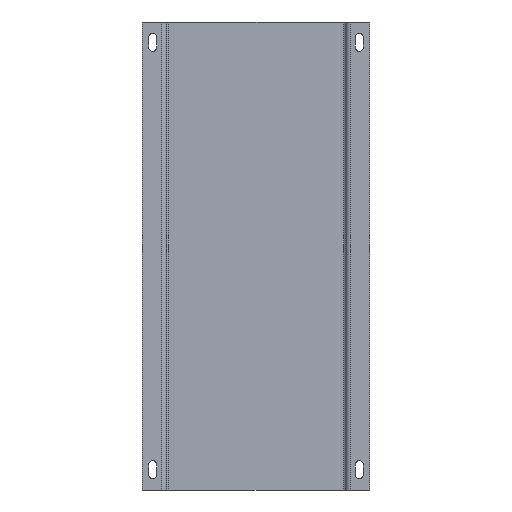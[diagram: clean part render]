
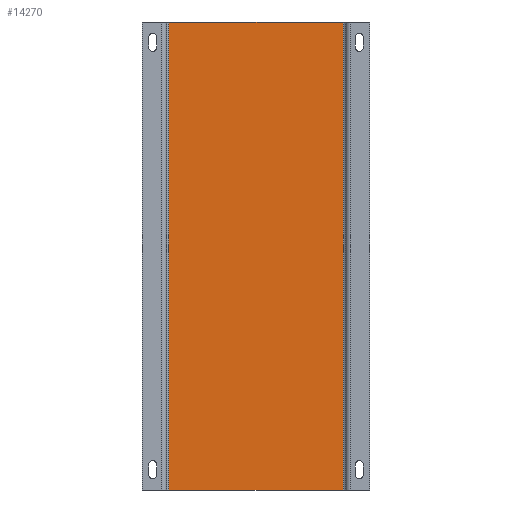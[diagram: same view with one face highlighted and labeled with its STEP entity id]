
A CAD part, front view. The second image highlights one B-rep face of the part: STEP entity #14270.
In plain terms, the highlighted planar face has unit normal (0, -1, 0).
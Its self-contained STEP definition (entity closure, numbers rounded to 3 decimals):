
#1102 = DIRECTION ( 'NONE',  ( 0., 0., -1. ) ) ;
#1936 = EDGE_LOOP ( 'NONE', ( #11999, #9047, #13992, #11092 ) ) ;
#2120 = LINE ( 'NONE', #7288, #6134 ) ;
#2346 = CARTESIAN_POINT ( 'NONE',  ( 127., 0., -65. ) ) ;
#2593 = VERTEX_POINT ( 'NONE', #14261 ) ;
#2670 = VERTEX_POINT ( 'NONE', #4105 ) ;
#4105 = CARTESIAN_POINT ( 'NONE',  ( -127., 0., -65. ) ) ;
#4439 = AXIS2_PLACEMENT_3D ( 'NONE', #12931, #8237, #9215 ) ;
#4808 = FACE_OUTER_BOUND ( 'NONE', #1936, .T. ) ;
#4857 = PLANE ( 'NONE',  #4439 ) ;
#6134 = VECTOR ( 'NONE', #8354, 1000. ) ;
#6272 = VECTOR ( 'NONE', #1102, 1000. ) ;
#6852 = VECTOR ( 'NONE', #10891, 1000. ) ;
#7288 = CARTESIAN_POINT ( 'NONE',  ( -127., 0., 615. ) ) ;
#7291 = CARTESIAN_POINT ( 'NONE',  ( -137., 0., -65. ) ) ;
#8187 = EDGE_CURVE ( 'NONE', #8516, #2670, #9826, .T. ) ;
#8237 = DIRECTION ( 'NONE',  ( 0., 1., 0. ) ) ;
#8354 = DIRECTION ( 'NONE',  ( 0., 0., 1. ) ) ;
#8508 = VECTOR ( 'NONE', #10217, 1000. ) ;
#8516 = VERTEX_POINT ( 'NONE', #2346 ) ;
#8947 = CARTESIAN_POINT ( 'NONE',  ( 127., 0., 615. ) ) ;
#9047 = ORIENTED_EDGE ( 'NONE', *, *, #13132, .F. ) ;
#9215 = DIRECTION ( 'NONE',  ( -1., 0., 0. ) ) ;
#9469 = EDGE_CURVE ( 'NONE', #11063, #8516, #13576, .T. ) ;
#9826 = LINE ( 'NONE', #7291, #6852 ) ;
#10217 = DIRECTION ( 'NONE',  ( 1., 0., 0. ) ) ;
#10278 = LINE ( 'NONE', #12556, #8508 ) ;
#10891 = DIRECTION ( 'NONE',  ( -1., 0., 0. ) ) ;
#11063 = VERTEX_POINT ( 'NONE', #8947 ) ;
#11092 = ORIENTED_EDGE ( 'NONE', *, *, #8187, .F. ) ;
#11193 = CARTESIAN_POINT ( 'NONE',  ( 127., 0., 615. ) ) ;
#11287 = EDGE_CURVE ( 'NONE', #2670, #2593, #2120, .T. ) ;
#11999 = ORIENTED_EDGE ( 'NONE', *, *, #9469, .F. ) ;
#12556 = CARTESIAN_POINT ( 'NONE',  ( 127., 0., 615. ) ) ;
#12931 = CARTESIAN_POINT ( 'NONE',  ( 127., 0., 615. ) ) ;
#13132 = EDGE_CURVE ( 'NONE', #2593, #11063, #10278, .T. ) ;
#13576 = LINE ( 'NONE', #11193, #6272 ) ;
#13992 = ORIENTED_EDGE ( 'NONE', *, *, #11287, .F. ) ;
#14261 = CARTESIAN_POINT ( 'NONE',  ( -127., 0., 615. ) ) ;
#14270 = ADVANCED_FACE ( 'NONE', ( #4808 ), #4857, .F. ) ;
